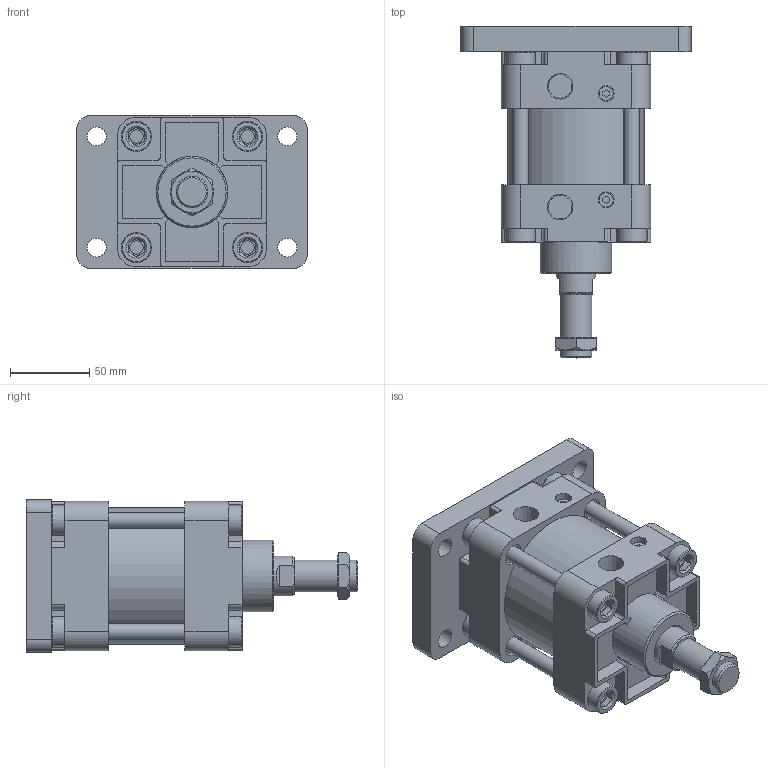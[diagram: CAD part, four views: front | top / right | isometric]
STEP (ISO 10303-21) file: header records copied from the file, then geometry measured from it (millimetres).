
FILE_DESCRIPTION(/* description */ ('Unknown'),/* implementation_level */ '2;1');
FILE_NAME(/* name */ 'WA80-0-FB',/* time_stamp */ '2026-07-17T16:55:45+08:00',/* author */ ('Unknown'),/* organization */ ('Unknown'),/* preprocessor_version */ 'ST-DEVELOPER v16.7',/* originating_system */ 'DEX',/* authorisation */ $);
FILE_SCHEMA (('CONFIG_CONTROL_DESIGN'));
Length unit declared in the file: millimetre
Products named in the file (8): WA80-0-FB; WA80_前; WA80_後; WA80_鋁; WA80_､ﾟｶbｬ｡6; WA80_T´U¤útionRefs; WA80_FA; M20-1.5P-8_螺
Assembly tree (10 placements, depth 2):
  WA80-0-FB
    WA80_前
    WA80_後
    WA80_鋁
    WA80_､ﾟｶbｬ｡6
    WA80_T´U¤útionRefs  x4
    WA80_FA
    M20-1.5P-8_螺
Bounding box: 145 x 209 x 96 mm (x, y, z)
Volume: 1043054.2 mm3; surface area: 208862.8 mm2
Topology: 10 solids, 10 shells, 396 faces, 960 edges, 637 vertices
Faces by surface type: plane 229, cylinder 136, cone 23, torus 8
Full cylindrical faces by diameter (mm): 8.5 x8, 9 x2, 10 x6, 11 x4, 12 x4, 14 x12, 14.2 x4, 17 x4, 18.376 x1, 19 x8, 20 x1, 25 x2, 26 x1, 45 x1, 49 x1, 79.5 x1, 80 x3, 86 x1
Entity records: 10706 total; most frequent: CARTESIAN_POINT 1596, DIRECTION 1538, ORIENTED_EDGE 1368, EDGE_CURVE 684, AXIS2_PLACEMENT_3D 574, VERTEX_POINT 484, EDGE_LOOP 420, FACE_BOUND 420
